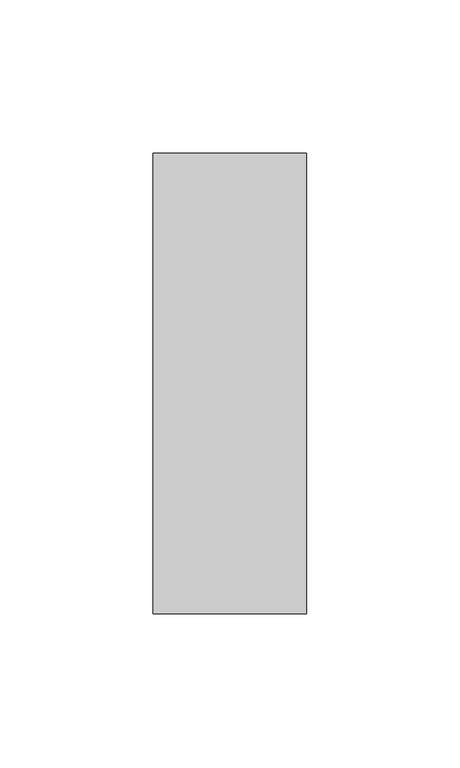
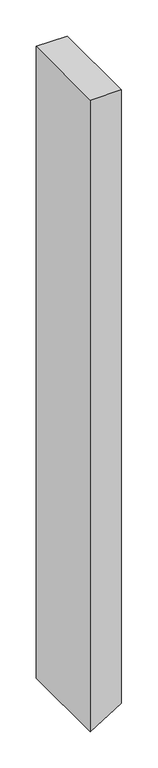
"""IFC4 building model written with IfcOpenShell, lengths in millimetres: member geometry, Прямоугольный импост : 50 x 150 мм."""

from ifc_helpers import new_model, si_unit, frame, origin, place, context, project, spatial, polyline, outline, extrude, source, transform, mapped, element, save


def member_5103b3f5(model_context):
    return source(origin(), model_context, "Body", "SweptSolid", [
        extrude(outline(polyline([(0.0, 25.0), (0.0, -25.0), (-1068.3272184, -25.0), (-1036.9583971, 25.0), (0.0, 25.0)])), frame((0.0, -75.0, 0.0), z_axis=(0.0, 1.0, 0.0), x_axis=(0.0, 0.0, 1.0)), (0.0, 0.0, 1.0), 150.0),
    ])


if __name__ == "__main__":
    model = new_model("IFC4")
    model_context = context("Model", 3, world=origin())
    ifc_project = project(units=[si_unit("LENGTHUNIT", "METRE", prefix="MILLI")], contexts=[model_context])
    site = spatial("IfcSite", under=ifc_project)
    building = spatial("IfcBuilding", under=site)
    placement = place(None, origin())
    member_shape = member_5103b3f5(model_context)
    element("IfcMember", 1, ObjectType="Прямоугольный импост : 50 x 150 мм", at=placement, inside=building, context=model_context, shape_type="MappedRepresentation", body=[
        mapped(member_shape, transform((0.0, 0.0, 0.0), x_axis=(1.0, 0.0, 0.0), y_axis=(0.0, 1.0, 0.0), z_axis=(0.0, 0.0, 1.0))),
    ])
    save(model, "model.ifc")
